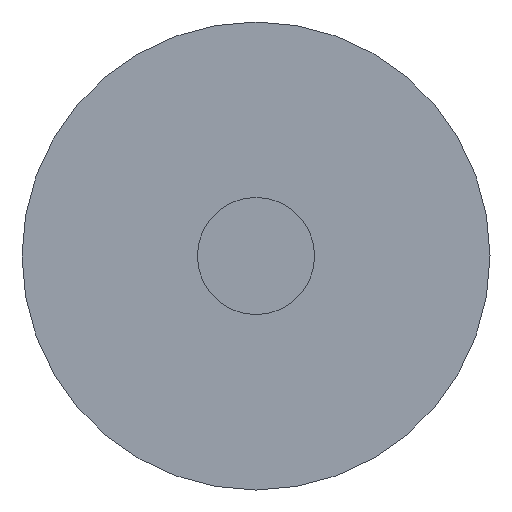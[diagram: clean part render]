
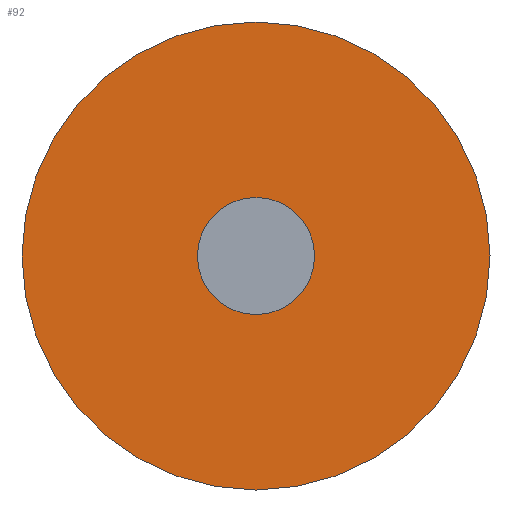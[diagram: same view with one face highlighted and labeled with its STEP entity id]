
A CAD part, left-side view. The second image highlights one B-rep face of the part: STEP entity #92.
In plain terms, the highlighted planar face has unit normal (-1, 0, 0).
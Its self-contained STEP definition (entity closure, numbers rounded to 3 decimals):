
#16=PLANE('',#107);
#26=FACE_OUTER_BOUND('',#36,.T.);
#36=EDGE_LOOP('',(#66));
#47=CIRCLE('',#106,1.4);
#53=VERTEX_POINT('',#155);
#59=EDGE_CURVE('',#53,#53,#47,.T.);
#66=ORIENTED_EDGE('',*,*,#59,.T.);
#92=ADVANCED_FACE('',(#26),#16,.F.);
#106=AXIS2_PLACEMENT_3D('',#156,#125,#126);
#107=AXIS2_PLACEMENT_3D('',#157,#127,#128);
#125=DIRECTION('center_axis',(-1.,0.,0.));
#126=DIRECTION('ref_axis',(0.,-1.,0.));
#127=DIRECTION('center_axis',(1.,0.,0.));
#128=DIRECTION('ref_axis',(0.,0.,-1.));
#155=CARTESIAN_POINT('',(0.,1.4,0.));
#156=CARTESIAN_POINT('Origin',(0.,0.,0.));
#157=CARTESIAN_POINT('Origin',(0.,0.,0.));
